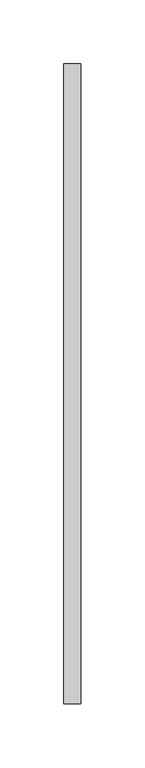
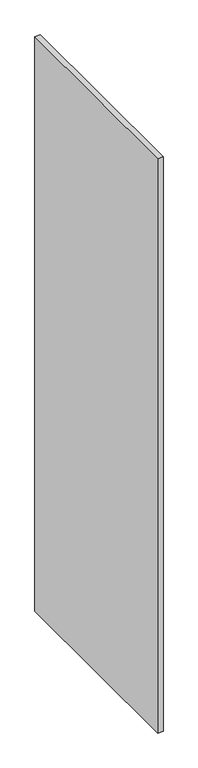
"""IFC4 building model written with IfcOpenShell, lengths in millimetres: furniture geometry, Lockers-Bay-Duracube-Duraloc : LWM-1900h x 500d x 400w @ 470h Wall."""

from ifc_helpers import new_model, si_unit, frame, origin, place, context, project, spatial, polyline, outline, extrude, source, transform, mapped, element, save


def furniture_e4ac2a61(model_context):
    return source(origin(), model_context, "Body", "SweptSolid", [
        extrude(outline(polyline([(0.0, 250.0), (13.0, 250.0), (13.0, -250.0), (0.0, -250.0), (0.0, 250.0)])), frame((0.0, 0.0, 470.0), z_axis=(0.0, 0.0, 1.0), x_axis=(1.0, 0.0, 0.0)), (0.0, 0.0, 1.0), 1430.0),
    ])


if __name__ == "__main__":
    model = new_model("IFC4")
    model_context = context("Model", 3, world=origin())
    ifc_project = project(units=[si_unit("LENGTHUNIT", "METRE", prefix="MILLI")], contexts=[model_context])
    site = spatial("IfcSite", under=ifc_project)
    building = spatial("IfcBuilding", under=site)
    placement = place(None, origin())
    furniture_shape = furniture_e4ac2a61(model_context)
    element("IfcFurniture", 1, ObjectType="Lockers-Bay-Duracube-Duraloc : LWM-1900h x 500d x 400w @ 470h Wall", at=placement, inside=building, context=model_context, shape_type="MappedRepresentation", body=[
        mapped(furniture_shape, transform((0.0, 0.0, 0.0), x_axis=(1.0, 0.0, 0.0), y_axis=(0.0, 1.0, 0.0), z_axis=(0.0, 0.0, 1.0))),
    ])
    save(model, "model.ifc")
